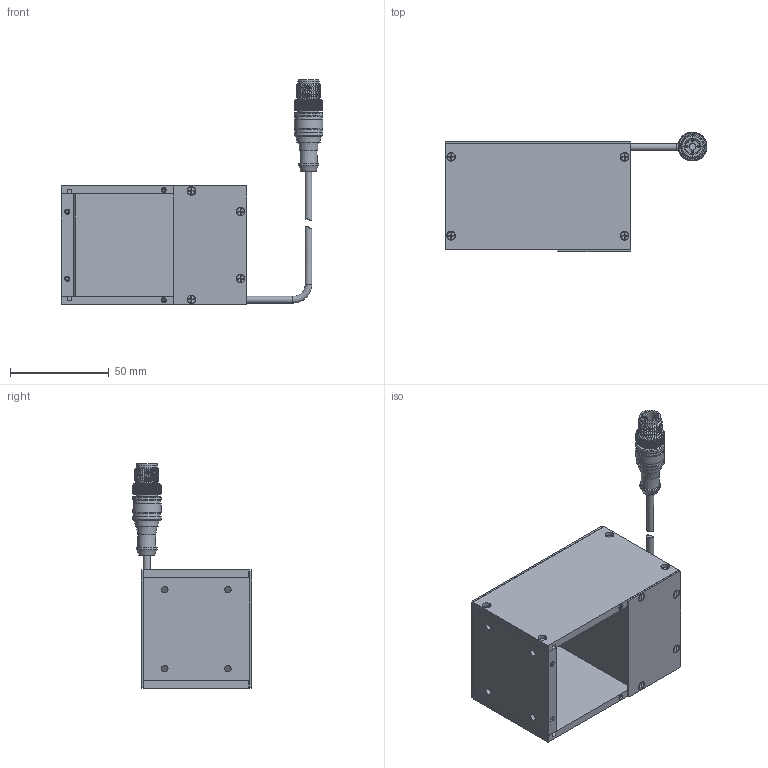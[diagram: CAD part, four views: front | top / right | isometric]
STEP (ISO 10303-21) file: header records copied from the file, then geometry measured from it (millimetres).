
FILE_DESCRIPTION (( 'STEP AP203' ), '1' );
FILE_NAME ('EFFI-COAX-050-x.STEP', '2019-04-25T02:34:23', ( '' ), ( '' ), 'SwSTEP 2.0', 'SolidWorks 2011', '' );
FILE_SCHEMA (( 'CONFIG_CONTROL_DESIGN' ));
Products named in the file (1): EFFI-COAX-050-x
Bounding box: 132.65 x 60.4 x 113.9 mm (x, y, z)
Surface area: 55188.1 mm2 (no closed solid volume)
Topology: 0 solids, 812 shells, 2071 faces, 7916 edges, 6617 vertices
Faces by surface type: bspline 1496, plane 258, cylinder 210, cone 98, torus 9
Full cylindrical faces by diameter (mm): 1 x4, 1.6 x4, 3.3 x8, 3.5 x3, 4 x10, 4.4 x8, 5 x1, 8.3 x1, 10.5 x1, 10.7 x1, 10.9 x1, 11 x1, 12 x6, 13.75 x1, 13.9 x2, 14.499 x1, 14.5 x2
Entity records: 99596 total; most frequent: CARTESIAN_POINT 57400, ORIENTED_EDGE 9321, EDGE_CURVE 7734, VERTEX_POINT 6567, B_SPLINE_CURVE_WITH_KNOTS 4381, DIRECTION 2895, EDGE_LOOP 2295, FACE_OUTER_BOUND 2137
